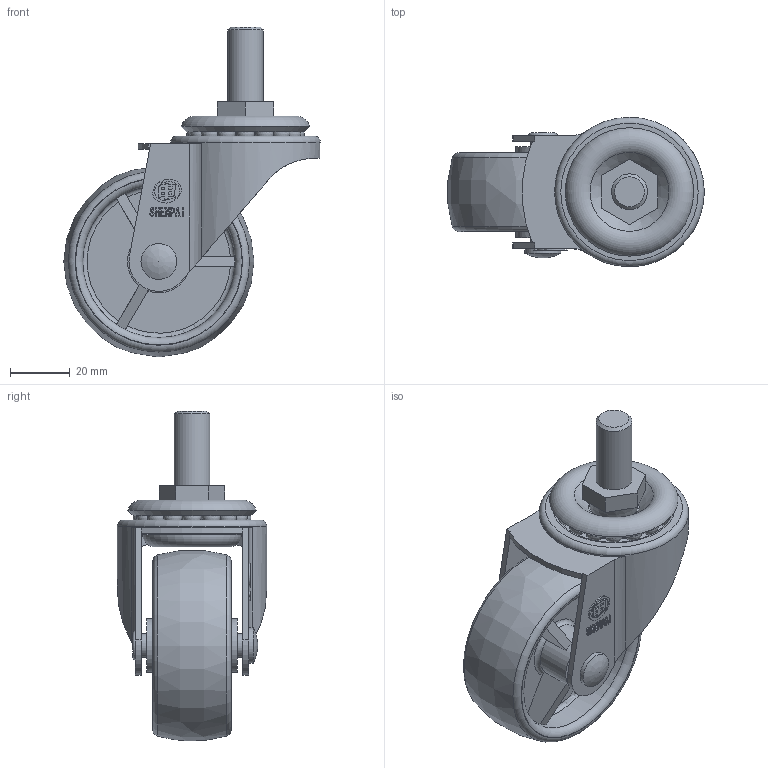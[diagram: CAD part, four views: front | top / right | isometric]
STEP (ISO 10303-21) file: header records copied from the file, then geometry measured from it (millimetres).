
FILE_DESCRIPTION(/* description */ (''),/* implementation_level */ '2;1');
FILE_NAME(/* name */ '10A20_2.5_F.stp',/* time_stamp */ '2022-10-06T13:47:49+08:00',/* author */ (''),/* organization */ (''),/* preprocessor_version */ 'ST-DEVELOPER v14',/* originating_system */ 'SIEMENS PLM Software NX 8.0',/* authorisation */ '');
FILE_SCHEMA (('AUTOMOTIVE_DESIGN { 1 0 10303 214 3 1 1 1 }'));
Length unit declared in the file: millimetre
Products named in the file (1): 10A20_2.5_F
Bounding box: 85.81 x 50 x 110.47 mm (x, y, z)
Volume: 69737.8 mm3; surface area: 40231.2 mm2
Topology: 1 solids, 1 shells, 360 faces, 1014 edges, 675 vertices
Faces by surface type: plane 228, cylinder 56, sphere 34, torus 30, cone 10, bspline 2
Full cylindrical faces by diameter (mm): 6.4 x1, 8 x2, 8.3 x2, 10 x1, 10.2 x2, 12 x2, 13 x1, 18 x2, 21 x1, 28 x1, 30 x1, 46 x1, 50 x1, 51 x2
Entity records: 14204 total; most frequent: CARTESIAN_POINT 5999, ORIENTED_EDGE 1728, DIRECTION 1482, EDGE_CURVE 864, VERTEX_POINT 610, AXIS2_PLACEMENT_3D 575, EDGE_LOOP 501, ADVANCED_FACE 360
